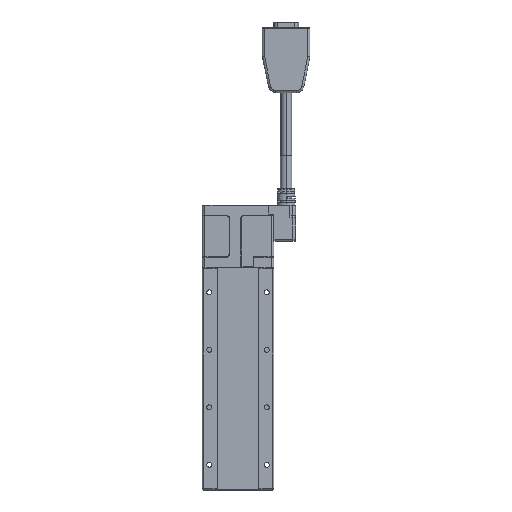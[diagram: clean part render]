
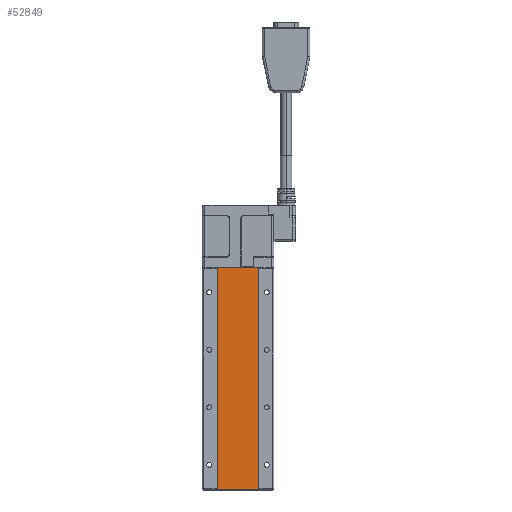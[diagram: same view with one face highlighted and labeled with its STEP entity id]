
A CAD part, front view. The second image highlights one B-rep face of the part: STEP entity #52849.
In plain terms, the highlighted planar face has unit normal (0, -1, 0).
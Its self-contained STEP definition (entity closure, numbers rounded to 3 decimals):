
#2650 = EDGE_CURVE ( 'NONE', #197954, #65695, #134507, .T. ) ;
#3268 = LINE ( 'NONE', #78097, #25259 ) ;
#22301 = CARTESIAN_POINT ( 'NONE',  ( -14.3, 0.8, 0.2 ) ) ;
#25259 = VECTOR ( 'NONE', #31368, 1000. ) ;
#29525 = CARTESIAN_POINT ( 'NONE',  ( 14.3, 0.8, 0.2 ) ) ;
#31368 = DIRECTION ( 'NONE',  ( -1., 0., 0. ) ) ;
#43637 = EDGE_CURVE ( 'NONE', #183316, #197954, #3268, .T. ) ;
#45157 = LINE ( 'NONE', #29525, #132287 ) ;
#52849 = ADVANCED_FACE ( 'NONE', ( #73569 ), #120365, .F. ) ;
#53011 = ORIENTED_EDGE ( 'NONE', *, *, #2650, .T. ) ;
#54038 = DIRECTION ( 'NONE',  ( 1., 0., 0. ) ) ;
#65695 = VERTEX_POINT ( 'NONE', #84357 ) ;
#66412 = ORIENTED_EDGE ( 'NONE', *, *, #112154, .T. ) ;
#69567 = CARTESIAN_POINT ( 'NONE',  ( -14.3, 0.8, 0.2 ) ) ;
#70509 = DIRECTION ( 'NONE',  ( -1., 0., 0. ) ) ;
#73569 = FACE_OUTER_BOUND ( 'NONE', #170903, .T. ) ;
#78097 = CARTESIAN_POINT ( 'NONE',  ( -14.3, 0.8, 154.8 ) ) ;
#84357 = CARTESIAN_POINT ( 'NONE',  ( -14.3, 0.8, 0.2 ) ) ;
#87172 = VERTEX_POINT ( 'NONE', #156166 ) ;
#88477 = VECTOR ( 'NONE', #54038, 1000. ) ;
#98721 = LINE ( 'NONE', #69567, #88477 ) ;
#103744 = CARTESIAN_POINT ( 'NONE',  ( -14.3, 0.8, 154.8 ) ) ;
#112154 = EDGE_CURVE ( 'NONE', #87172, #183316, #45157, .T. ) ;
#114971 = CARTESIAN_POINT ( 'NONE',  ( 14.3, 0.8, 154.8 ) ) ;
#120365 = PLANE ( 'NONE',  #159874 ) ;
#131328 = CARTESIAN_POINT ( 'NONE',  ( -14.3, 0.8, 154.8 ) ) ;
#132287 = VECTOR ( 'NONE', #172921, 1000. ) ;
#134507 = LINE ( 'NONE', #22301, #150675 ) ;
#150675 = VECTOR ( 'NONE', #196923, 1000. ) ;
#155138 = ORIENTED_EDGE ( 'NONE', *, *, #168133, .T. ) ;
#156166 = CARTESIAN_POINT ( 'NONE',  ( 14.3, 0.8, 0.2 ) ) ;
#159874 = AXIS2_PLACEMENT_3D ( 'NONE', #103744, #172036, #70509 ) ;
#168133 = EDGE_CURVE ( 'NONE', #65695, #87172, #98721, .T. ) ;
#169503 = ORIENTED_EDGE ( 'NONE', *, *, #43637, .T. ) ;
#170903 = EDGE_LOOP ( 'NONE', ( #53011, #155138, #66412, #169503 ) ) ;
#172036 = DIRECTION ( 'NONE',  ( 0., 1., 0. ) ) ;
#172921 = DIRECTION ( 'NONE',  ( 0., 0., 1. ) ) ;
#183316 = VERTEX_POINT ( 'NONE', #114971 ) ;
#196923 = DIRECTION ( 'NONE',  ( 0., 0., -1. ) ) ;
#197954 = VERTEX_POINT ( 'NONE', #131328 ) ;
